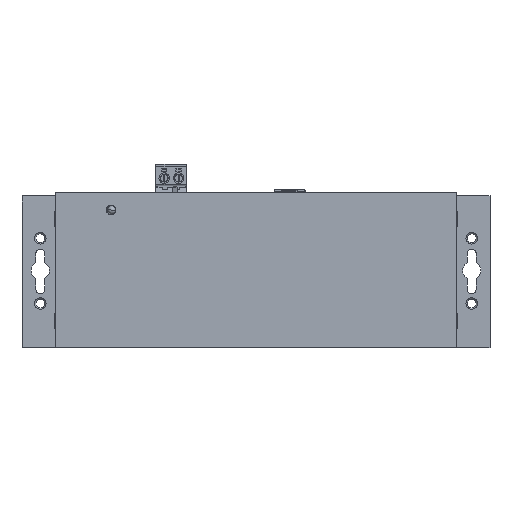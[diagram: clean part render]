
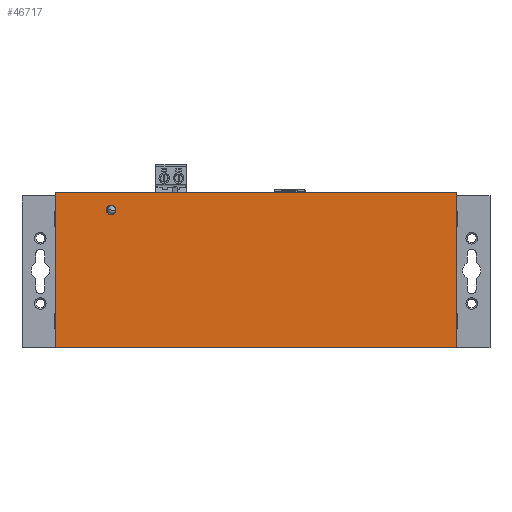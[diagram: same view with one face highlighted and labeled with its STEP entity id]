
A CAD part, top view. The second image highlights one B-rep face of the part: STEP entity #46717.
In plain terms, the highlighted planar face has unit normal (0, 0, 1).
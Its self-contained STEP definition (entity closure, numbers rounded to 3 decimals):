
#8017 = PLANE('',#8018);
#8018 = AXIS2_PLACEMENT_3D('',#8019,#8020,#8021);
#8019 = CARTESIAN_POINT('',(89.5,0.,10.35));
#8020 = DIRECTION('',(-0.,-1.,-0.));
#8021 = DIRECTION('',(0.,0.,-1.));
#8101 = PLANE('',#8102);
#8102 = AXIS2_PLACEMENT_3D('',#8103,#8104,#8105);
#8103 = CARTESIAN_POINT('',(12.9,35.789,11.902));
#8104 = DIRECTION('',(-1.,0.,0.));
#8105 = DIRECTION('',(0.,0.,-1.));
#8157 = PLANE('',#8158);
#8158 = AXIS2_PLACEMENT_3D('',#8159,#8160,#8161);
#8159 = CARTESIAN_POINT('',(166.1,35.789,11.902));
#8160 = DIRECTION('',(1.,0.,0.));
#8161 = DIRECTION('',(0.,0.,1.));
#8572 = CYLINDRICAL_SURFACE('',#8573,1.8);
#8573 = AXIS2_PLACEMENT_3D('',#8574,#8575,#8576);
#8574 = CARTESIAN_POINT('',(34.,52.8,17.));
#8575 = DIRECTION('',(0.,0.,1.));
#8576 = DIRECTION('',(1.,0.,0.));
#17190 = VERTEX_POINT('',#17191);
#17191 = CARTESIAN_POINT('',(166.1,0.,23.2));
#17287 = VERTEX_POINT('',#17288);
#17288 = CARTESIAN_POINT('',(166.1,59.3,23.2));
#17302 = PLANE('',#17303);
#17303 = AXIS2_PLACEMENT_3D('',#17304,#17305,#17306);
#17304 = CARTESIAN_POINT('',(-0.1,59.3,0.));
#17305 = DIRECTION('',(0.,1.,0.));
#17306 = DIRECTION('',(0.,0.,1.));
#17314 = EDGE_CURVE('',#17190,#17287,#17315,.T.);
#17315 = SURFACE_CURVE('',#17316,(#17320,#17327),.PCURVE_S1.);
#17316 = LINE('',#17317,#17318);
#17317 = CARTESIAN_POINT('',(166.1,0.,23.2));
#17318 = VECTOR('',#17319,1.);
#17319 = DIRECTION('',(0.,1.,0.));
#17320 = PCURVE('',#8157,#17321);
#17321 = DEFINITIONAL_REPRESENTATION('',(#17322),#17326);
#17322 = LINE('',#17323,#17324);
#17323 = CARTESIAN_POINT('',(11.298,35.789));
#17324 = VECTOR('',#17325,1.);
#17325 = DIRECTION('',(0.,-1.));
#17326 = ( GEOMETRIC_REPRESENTATION_CONTEXT(2) 
PARAMETRIC_REPRESENTATION_CONTEXT() REPRESENTATION_CONTEXT('2D SPACE',''
  ) );
#17327 = PCURVE('',#17328,#17333);
#17328 = PLANE('',#17329);
#17329 = AXIS2_PLACEMENT_3D('',#17330,#17331,#17332);
#17330 = CARTESIAN_POINT('',(-0.1,0.,23.2));
#17331 = DIRECTION('',(0.,0.,1.));
#17332 = DIRECTION('',(1.,0.,0.));
#17333 = DEFINITIONAL_REPRESENTATION('',(#17334),#17337);
#17334 = B_SPLINE_CURVE_WITH_KNOTS('',1,(#17335,#17336),.UNSPECIFIED.,
  .F.,.F.,(2,2),(-5.93,65.23),.PIECEWISE_BEZIER_KNOTS.);
#17335 = CARTESIAN_POINT('',(166.2,-5.93));
#17336 = CARTESIAN_POINT('',(166.2,65.23));
#17337 = ( GEOMETRIC_REPRESENTATION_CONTEXT(2) 
PARAMETRIC_REPRESENTATION_CONTEXT() REPRESENTATION_CONTEXT('2D SPACE',''
  ) );
#18590 = VERTEX_POINT('',#18591);
#18591 = CARTESIAN_POINT('',(12.9,0.,23.2));
#18612 = EDGE_CURVE('',#18590,#18613,#18615,.T.);
#18613 = VERTEX_POINT('',#18614);
#18614 = CARTESIAN_POINT('',(12.9,59.3,23.2));
#18615 = SURFACE_CURVE('',#18616,(#18620,#18627),.PCURVE_S1.);
#18616 = LINE('',#18617,#18618);
#18617 = CARTESIAN_POINT('',(12.9,0.,23.2));
#18618 = VECTOR('',#18619,1.);
#18619 = DIRECTION('',(0.,1.,0.));
#18620 = PCURVE('',#8101,#18621);
#18621 = DEFINITIONAL_REPRESENTATION('',(#18622),#18626);
#18622 = LINE('',#18623,#18624);
#18623 = CARTESIAN_POINT('',(-11.298,35.789));
#18624 = VECTOR('',#18625,1.);
#18625 = DIRECTION('',(0.,-1.));
#18626 = ( GEOMETRIC_REPRESENTATION_CONTEXT(2) 
PARAMETRIC_REPRESENTATION_CONTEXT() REPRESENTATION_CONTEXT('2D SPACE',''
  ) );
#18627 = PCURVE('',#17328,#18628);
#18628 = DEFINITIONAL_REPRESENTATION('',(#18629),#18632);
#18629 = B_SPLINE_CURVE_WITH_KNOTS('',1,(#18630,#18631),.UNSPECIFIED.,
  .F.,.F.,(2,2),(-5.93,65.23),.PIECEWISE_BEZIER_KNOTS.);
#18630 = CARTESIAN_POINT('',(13.,-5.93));
#18631 = CARTESIAN_POINT('',(13.,65.23));
#18632 = ( GEOMETRIC_REPRESENTATION_CONTEXT(2) 
PARAMETRIC_REPRESENTATION_CONTEXT() REPRESENTATION_CONTEXT('2D SPACE',''
  ) );
#20609 = EDGE_CURVE('',#20610,#20610,#20612,.T.);
#20610 = VERTEX_POINT('',#20611);
#20611 = CARTESIAN_POINT('',(35.8,52.8,23.2));
#20612 = SURFACE_CURVE('',#20613,(#20618,#20625),.PCURVE_S1.);
#20613 = CIRCLE('',#20614,1.8);
#20614 = AXIS2_PLACEMENT_3D('',#20615,#20616,#20617);
#20615 = CARTESIAN_POINT('',(34.,52.8,23.2));
#20616 = DIRECTION('',(0.,0.,1.));
#20617 = DIRECTION('',(1.,0.,0.));
#20618 = PCURVE('',#8572,#20619);
#20619 = DEFINITIONAL_REPRESENTATION('',(#20620),#20624);
#20620 = LINE('',#20621,#20622);
#20621 = CARTESIAN_POINT('',(0.,6.2));
#20622 = VECTOR('',#20623,1.);
#20623 = DIRECTION('',(1.,0.));
#20624 = ( GEOMETRIC_REPRESENTATION_CONTEXT(2) 
PARAMETRIC_REPRESENTATION_CONTEXT() REPRESENTATION_CONTEXT('2D SPACE',''
  ) );
#20625 = PCURVE('',#17328,#20626);
#20626 = DEFINITIONAL_REPRESENTATION('',(#20627),#20631);
#20627 = CIRCLE('',#20628,1.8);
#20628 = AXIS2_PLACEMENT_2D('',#20629,#20630);
#20629 = CARTESIAN_POINT('',(34.1,52.8));
#20630 = DIRECTION('',(1.,0.));
#20631 = ( GEOMETRIC_REPRESENTATION_CONTEXT(2) 
PARAMETRIC_REPRESENTATION_CONTEXT() REPRESENTATION_CONTEXT('2D SPACE',''
  ) );
#46717 = ADVANCED_FACE('',(#46718,#46764),#17328,.T.);
#46718 = FACE_BOUND('',#46719,.T.);
#46719 = EDGE_LOOP('',(#46720,#46741,#46742,#46763));
#46720 = ORIENTED_EDGE('',*,*,#46721,.F.);
#46721 = EDGE_CURVE('',#18613,#17287,#46722,.T.);
#46722 = SURFACE_CURVE('',#46723,(#46727,#46734),.PCURVE_S1.);
#46723 = LINE('',#46724,#46725);
#46724 = CARTESIAN_POINT('',(-0.1,59.3,23.2));
#46725 = VECTOR('',#46726,1.);
#46726 = DIRECTION('',(1.,0.,0.));
#46727 = PCURVE('',#17328,#46728);
#46728 = DEFINITIONAL_REPRESENTATION('',(#46729),#46733);
#46729 = LINE('',#46730,#46731);
#46730 = CARTESIAN_POINT('',(0.,59.3));
#46731 = VECTOR('',#46732,1.);
#46732 = DIRECTION('',(1.,0.));
#46733 = ( GEOMETRIC_REPRESENTATION_CONTEXT(2) 
PARAMETRIC_REPRESENTATION_CONTEXT() REPRESENTATION_CONTEXT('2D SPACE',''
  ) );
#46734 = PCURVE('',#17302,#46735);
#46735 = DEFINITIONAL_REPRESENTATION('',(#46736),#46740);
#46736 = LINE('',#46737,#46738);
#46737 = CARTESIAN_POINT('',(23.2,0.));
#46738 = VECTOR('',#46739,1.);
#46739 = DIRECTION('',(0.,1.));
#46740 = ( GEOMETRIC_REPRESENTATION_CONTEXT(2) 
PARAMETRIC_REPRESENTATION_CONTEXT() REPRESENTATION_CONTEXT('2D SPACE',''
  ) );
#46741 = ORIENTED_EDGE('',*,*,#18612,.F.);
#46742 = ORIENTED_EDGE('',*,*,#46743,.T.);
#46743 = EDGE_CURVE('',#18590,#17190,#46744,.T.);
#46744 = SURFACE_CURVE('',#46745,(#46749,#46756),.PCURVE_S1.);
#46745 = LINE('',#46746,#46747);
#46746 = CARTESIAN_POINT('',(-0.1,0.,23.2));
#46747 = VECTOR('',#46748,1.);
#46748 = DIRECTION('',(1.,0.,0.));
#46749 = PCURVE('',#17328,#46750);
#46750 = DEFINITIONAL_REPRESENTATION('',(#46751),#46755);
#46751 = LINE('',#46752,#46753);
#46752 = CARTESIAN_POINT('',(0.,0.));
#46753 = VECTOR('',#46754,1.);
#46754 = DIRECTION('',(1.,0.));
#46755 = ( GEOMETRIC_REPRESENTATION_CONTEXT(2) 
PARAMETRIC_REPRESENTATION_CONTEXT() REPRESENTATION_CONTEXT('2D SPACE',''
  ) );
#46756 = PCURVE('',#8017,#46757);
#46757 = DEFINITIONAL_REPRESENTATION('',(#46758),#46762);
#46758 = LINE('',#46759,#46760);
#46759 = CARTESIAN_POINT('',(-12.85,-89.6));
#46760 = VECTOR('',#46761,1.);
#46761 = DIRECTION('',(0.,1.));
#46762 = ( GEOMETRIC_REPRESENTATION_CONTEXT(2) 
PARAMETRIC_REPRESENTATION_CONTEXT() REPRESENTATION_CONTEXT('2D SPACE',''
  ) );
#46763 = ORIENTED_EDGE('',*,*,#17314,.T.);
#46764 = FACE_BOUND('',#46765,.T.);
#46765 = EDGE_LOOP('',(#46766));
#46766 = ORIENTED_EDGE('',*,*,#20609,.F.);
